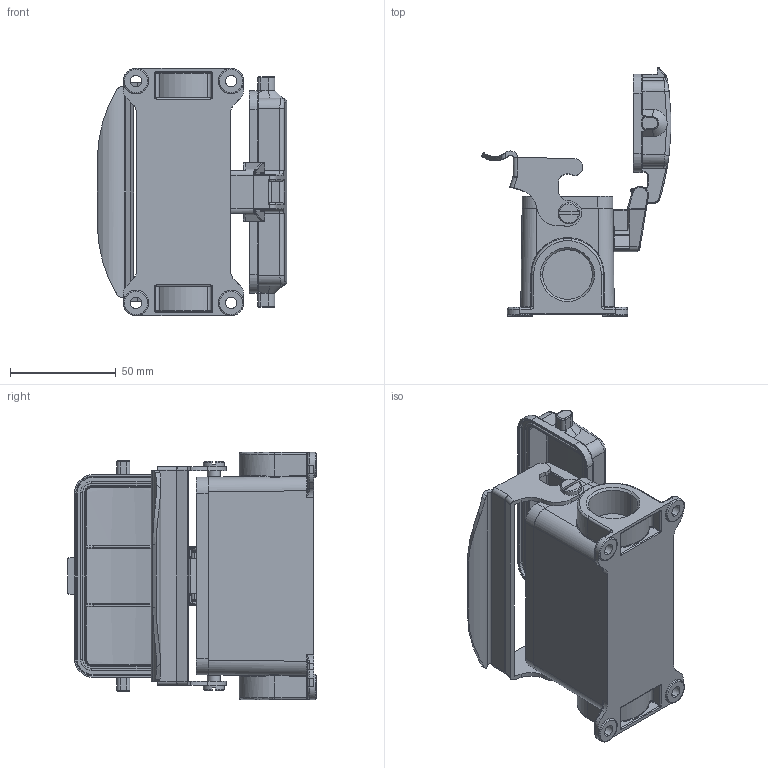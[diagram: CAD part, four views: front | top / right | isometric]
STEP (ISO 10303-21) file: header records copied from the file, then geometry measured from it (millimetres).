
FILE_DESCRIPTION (( 'STEP AP203' ), '1' );
FILE_NAME ('H16B-SDR-LB-M25 20-8-17.STEP', '2020-08-18T07:49:26', ( '' ), ( '' ), 'SwSTEP 2.0', 'SolidWorks 2016', '' );
FILE_SCHEMA (( 'CONFIG_CONTROL_DESIGN' ));
Length unit declared in the file: millimetre
Products named in the file (1): H16B-SDR-LB-M25 20-8-17
Bounding box: 89.67 x 117.4 x 117 mm (x, y, z)
Volume: 123871.4 mm3; surface area: 78320.2 mm2
Topology: 8 solids, 8 shells, 916 faces, 2224 edges, 1341 vertices
Faces by surface type: cylinder 353, bspline 260, plane 253, cone 50
Entity records: 34815 total; most frequent: CARTESIAN_POINT 14981, ORIENTED_EDGE 4436, DIRECTION 3774, EDGE_CURVE 2218, AXIS2_PLACEMENT_3D 1389, VERTEX_POINT 1341, LINE 996, VECTOR 996
